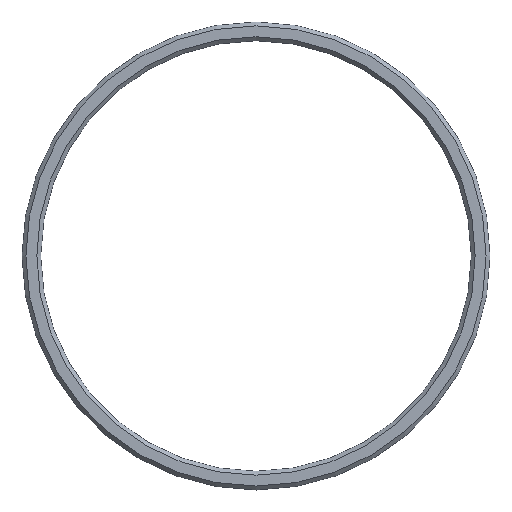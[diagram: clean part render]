
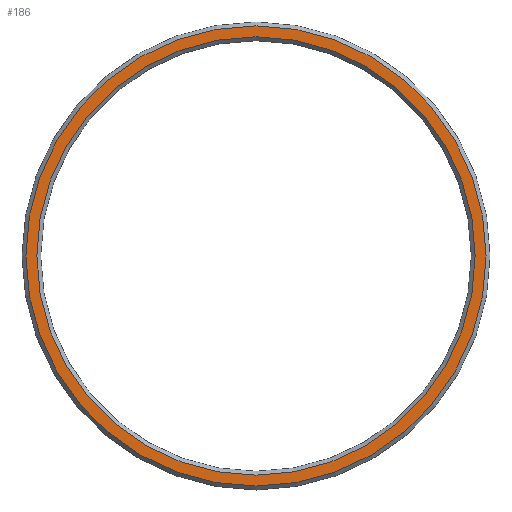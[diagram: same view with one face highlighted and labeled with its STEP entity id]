
A CAD part, top view. The second image highlights one B-rep face of the part: STEP entity #186.
In plain terms, the highlighted planar face has unit normal (0, 0, 1).
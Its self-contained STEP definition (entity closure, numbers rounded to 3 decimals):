
#107=PLANE('',#201);
#114=VERTEX_POINT('',#223);
#115=VERTEX_POINT('',#226);
#122=CIRCLE('',#200,29.5);
#123=CIRCLE('',#202,28.1);
#130=EDGE_CURVE('',#114,#114,#122,.T.);
#131=EDGE_CURVE('',#115,#115,#123,.T.);
#144=ORIENTED_EDGE('',*,*,#131,.F.);
#145=ORIENTED_EDGE('',*,*,#130,.F.);
#160=EDGE_LOOP('',(#144));
#161=EDGE_LOOP('',(#145));
#176=FACE_BOUND('',#160,.T.);
#177=FACE_BOUND('',#161,.T.);
#186=ADVANCED_FACE('',(#176,#177),#107,.T.);
#200=AXIS2_PLACEMENT_3D('',#222,#251,#252);
#201=AXIS2_PLACEMENT_3D('',#224,#253,$);
#202=AXIS2_PLACEMENT_3D('',#225,#254,#255);
#222=CARTESIAN_POINT('',(0.,0.,1.5));
#223=CARTESIAN_POINT('',(29.5,0.,1.5));
#224=CARTESIAN_POINT('',(0.,0.,1.5));
#225=CARTESIAN_POINT('',(0.,0.,1.5));
#226=CARTESIAN_POINT('',(28.1,0.,1.5));
#251=DIRECTION('',(0.,0.,-1.));
#252=DIRECTION('',(-29.5,0.,0.));
#253=DIRECTION('',(0.,0.,1.));
#254=DIRECTION('',(0.,0.,1.));
#255=DIRECTION('',(-28.1,0.,0.));
